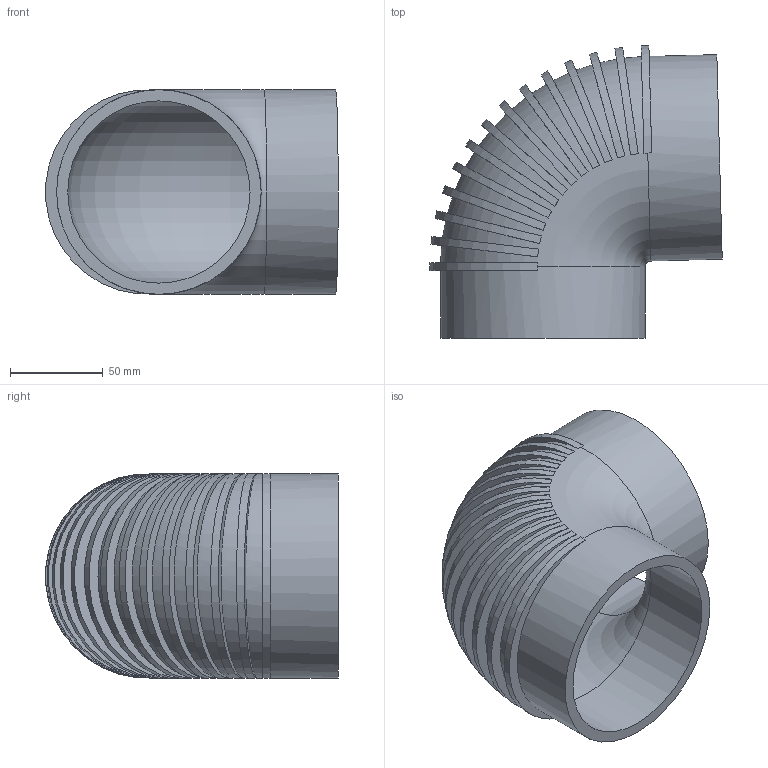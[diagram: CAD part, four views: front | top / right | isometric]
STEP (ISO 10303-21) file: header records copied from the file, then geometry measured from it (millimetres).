
FILE_DESCRIPTION(/* description */ (''),/* implementation_level */ '2;1');
FILE_NAME(/* name */ 'Z:\Geberit\Export\NewStep\Bogen_Ipart\stp\310880.stp',/* time_stamp */ '2014-04-03T16:43:32+02:00',/* author */ ('Marco'),/* organization */ (''),/* preprocessor_version */ 'ST-DEVELOPER v15.2',/* originating_system */ 'Autodesk Inventor 2014',/* authorisation */ '');
FILE_SCHEMA (('AUTOMOTIVE_DESIGN { 1 0 10303 214 3 1 1 }'));
Length unit declared in the file: millimetre
Products named in the file (1): 310880
Bounding box: 157.21 x 157.31 x 110 mm (x, y, z)
Volume: 365403.7 mm3; surface area: 132012.9 mm2
Topology: 1 solids, 1 shells, 50 faces, 144 edges, 96 vertices
Faces by surface type: plane 30, cylinder 18, torus 2
Full cylindrical faces by diameter (mm): 98 x2, 110 x2
Entity records: 2419 total; most frequent: CARTESIAN_POINT 1249, ORIENTED_EDGE 244, DIRECTION 182, EDGE_CURVE 122, VERTEX_POINT 92, AXIS2_PLACEMENT_3D 89, B_SPLINE_CURVE_WITH_KNOTS 80, EDGE_LOOP 70
